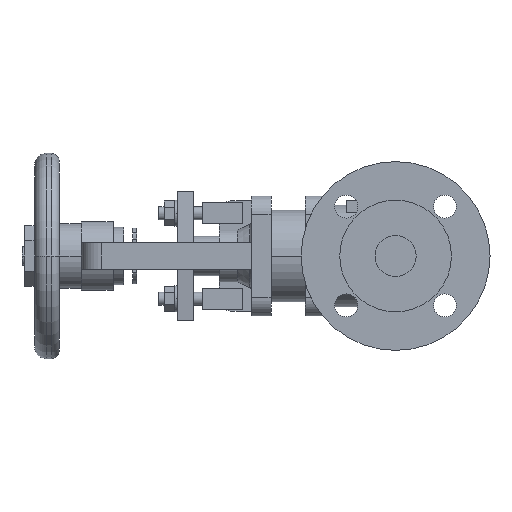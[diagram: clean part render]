
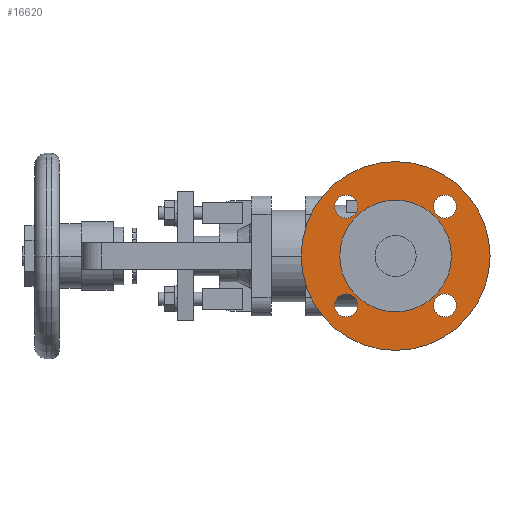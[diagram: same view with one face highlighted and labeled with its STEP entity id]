
A CAD part, left-side view. The second image highlights one B-rep face of the part: STEP entity #16620.
In plain terms, the highlighted planar face has unit normal (-1, 0, 0).
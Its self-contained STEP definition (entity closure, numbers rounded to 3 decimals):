
#7980=CARTESIAN_POINT('',(3.6,0.,-57.5));
#7990=VERTEX_POINT('',#7980);
#8150=CARTESIAN_POINT('',(3.6,0.,57.5));
#8160=VERTEX_POINT('',#8150);
#8190=CARTESIAN_POINT('',(3.6,0.,0.));
#8200=DIRECTION('',(1.,0.,0.));
#8210=DIRECTION('',(0.,0.,-1.));
#8220=AXIS2_PLACEMENT_3D('',#8190,#8200,#8210);
#8230=CIRCLE('',#8220,57.5);
#8240=EDGE_CURVE('',#7990,#8160,#8230,.T.);
#8470=CARTESIAN_POINT('',(3.6,30.052,
-23.052));
#8480=VERTEX_POINT('',#8470);
#8510=CARTESIAN_POINT('',(3.6,30.052,
-30.052));
#8520=DIRECTION('',(-1.,0.,0.));
#8530=DIRECTION('',(0.,0.,-1.));
#8540=AXIS2_PLACEMENT_3D('',#8510,#8520,#8530);
#8550=CIRCLE('',#8540,7.);
#8560=CARTESIAN_POINT('',(3.6,30.052,
-37.052));
#8570=VERTEX_POINT('',#8560);
#8580=EDGE_CURVE('',#8570,#8480,#8550,.T.);
#8960=CARTESIAN_POINT('',(3.6,-30.052,
-37.052));
#8970=VERTEX_POINT('',#8960);
#9130=CARTESIAN_POINT('',(3.6,-30.052,
-23.052));
#9140=VERTEX_POINT('',#9130);
#9170=CARTESIAN_POINT('',(3.6,-30.052,
-30.052));
#9180=DIRECTION('',(-1.,0.,0.));
#9190=DIRECTION('',(0.,0.,-1.));
#9200=AXIS2_PLACEMENT_3D('',#9170,#9180,#9190);
#9210=CIRCLE('',#9200,7.);
#9220=EDGE_CURVE('',#8970,#9140,#9210,.T.);
#9450=CARTESIAN_POINT('',(3.6,30.052,
23.052));
#9460=VERTEX_POINT('',#9450);
#9620=CARTESIAN_POINT('',(3.6,30.052,
37.052));
#9630=VERTEX_POINT('',#9620);
#9660=CARTESIAN_POINT('',(3.6,30.052,
30.052));
#9670=DIRECTION('',(-1.,0.,0.));
#9680=DIRECTION('',(0.,0.,-1.));
#9690=AXIS2_PLACEMENT_3D('',#9660,#9670,#9680);
#9700=CIRCLE('',#9690,7.);
#9710=EDGE_CURVE('',#9460,#9630,#9700,.T.);
#9940=CARTESIAN_POINT('',(3.6,-30.052,
37.052));
#9950=VERTEX_POINT('',#9940);
#9980=CARTESIAN_POINT('',(3.6,-30.052,
30.052));
#9990=DIRECTION('',(-1.,0.,0.));
#10000=DIRECTION('',(0.,0.,-1.));
#10010=AXIS2_PLACEMENT_3D('',#9980,#9990,#10000);
#10020=CIRCLE('',#10010,7.);
#10030=CARTESIAN_POINT('',(3.6,-30.052,
23.052));
#10040=VERTEX_POINT('',#10030);
#10050=EDGE_CURVE('',#10040,#9950,#10020,.T.);
#10430=CARTESIAN_POINT('',(3.6,-34.,0.));
#10440=VERTEX_POINT('',#10430);
#10600=CARTESIAN_POINT('',(3.6,34.,0.));
#10610=VERTEX_POINT('',#10600);
#10640=CARTESIAN_POINT('',(3.6,0.,0.));
#10650=DIRECTION('',(-1.,0.,0.));
#10660=DIRECTION('',(0.,1.,0.));
#10670=AXIS2_PLACEMENT_3D('',#10640,#10650,#10660);
#10680=CIRCLE('',#10670,34.);
#10690=EDGE_CURVE('',#10440,#10610,#10680,.T.);
#16270=CARTESIAN_POINT('',(3.6,45.75,0.)
);
#16280=DIRECTION('',(1.,0.,0.));
#16290=DIRECTION('',(0.,-1.,0.));
#16300=AXIS2_PLACEMENT_3D('',#16270,#16280,#16290);
#16310=PLANE('',#16300);
#16320=EDGE_CURVE('',#10610,#10440,#10680,.T.);
#16330=ORIENTED_EDGE('',*,*,#16320,.F.);
#16340=ORIENTED_EDGE('',*,*,#10690,.F.);
#16350=EDGE_LOOP('',(#16340,#16330));
#16360=FACE_BOUND('',#16350,.T.);
#16370=EDGE_CURVE('',#8160,#7990,#8230,.T.);
#16380=ORIENTED_EDGE('',*,*,#16370,.F.);
#16390=ORIENTED_EDGE('',*,*,#8240,.F.);
#16400=EDGE_LOOP('',(#16390,#16380));
#16410=FACE_OUTER_BOUND('',#16400,.T.);
#16420=EDGE_CURVE('',#8480,#8570,#8550,.T.);
#16430=ORIENTED_EDGE('',*,*,#16420,.F.);
#16440=ORIENTED_EDGE('',*,*,#8580,.F.);
#16450=EDGE_LOOP('',(#16440,#16430));
#16460=FACE_BOUND('',#16450,.T.);
#16470=EDGE_CURVE('',#9140,#8970,#9210,.T.);
#16480=ORIENTED_EDGE('',*,*,#16470,.F.);
#16490=ORIENTED_EDGE('',*,*,#9220,.F.);
#16500=EDGE_LOOP('',(#16490,#16480));
#16510=FACE_BOUND('',#16500,.T.);
#16520=EDGE_CURVE('',#9630,#9460,#9700,.T.);
#16530=ORIENTED_EDGE('',*,*,#16520,.F.);
#16540=ORIENTED_EDGE('',*,*,#9710,.F.);
#16550=EDGE_LOOP('',(#16540,#16530));
#16560=FACE_BOUND('',#16550,.T.);
#16570=ORIENTED_EDGE('',*,*,#10050,.F.);
#16580=EDGE_CURVE('',#9950,#10040,#10020,.T.);
#16590=ORIENTED_EDGE('',*,*,#16580,.F.);
#16600=EDGE_LOOP('',(#16590,#16570));
#16610=FACE_BOUND('',#16600,.T.);
#16620=ADVANCED_FACE('',(#16360,#16410,#16460,#16510,#16560,#16610),
#16310,.F.);
